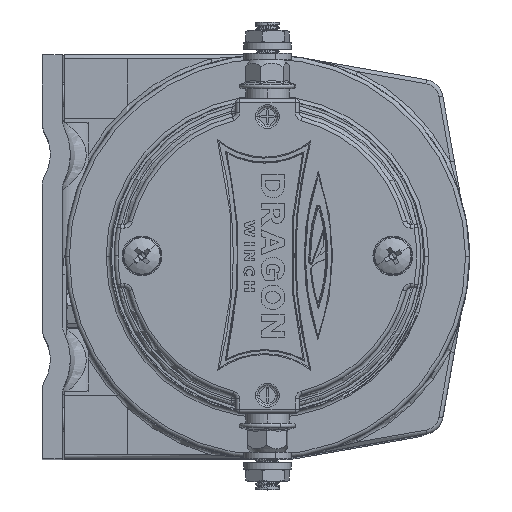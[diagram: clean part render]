
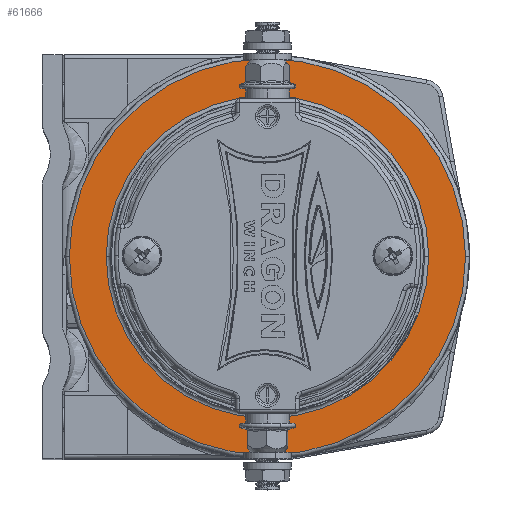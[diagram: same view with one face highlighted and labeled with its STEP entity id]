
A CAD part, top view. The second image highlights one B-rep face of the part: STEP entity #61666.
In plain terms, the highlighted planar face has unit normal (0, 0, 1).
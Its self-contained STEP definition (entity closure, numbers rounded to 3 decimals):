
#851 = EDGE_CURVE ( 'NONE', #25385, #6135, #20379, .T. ) ;
#1169 = CARTESIAN_POINT ( 'NONE',  ( -2.55, 0., 45. ) ) ;
#6135 = VERTEX_POINT ( 'NONE', #26026 ) ;
#6561 = CARTESIAN_POINT ( 'NONE',  ( -2.55, 0., 45. ) ) ;
#8914 = CARTESIAN_POINT ( 'NONE',  ( -2.55, 0., 45. ) ) ;
#11705 = DIRECTION ( 'NONE',  ( 0., 0., 1. ) ) ;
#14529 = EDGE_CURVE ( 'NONE', #64086, #55202, #17914, .T. ) ;
#15894 = ORIENTED_EDGE ( 'NONE', *, *, #851, .T. ) ;
#16867 = CIRCLE ( 'NONE', #64523, 40.5 ) ;
#17914 = CIRCLE ( 'NONE', #38848, 49.75 ) ;
#18409 = ORIENTED_EDGE ( 'NONE', *, *, #38938, .T. ) ;
#19425 = DIRECTION ( 'NONE',  ( 1., 0., 0. ) ) ;
#20379 = CIRCLE ( 'NONE', #45945, 40.5 ) ;
#20966 = DIRECTION ( 'NONE',  ( 1., 0., 0. ) ) ;
#22176 = DIRECTION ( 'NONE',  ( 1., 0., 0. ) ) ;
#23336 = DIRECTION ( 'NONE',  ( 1., 0., 0. ) ) ;
#23844 = EDGE_LOOP ( 'NONE', ( #15894, #18409 ) ) ;
#25385 = VERTEX_POINT ( 'NONE', #39376 ) ;
#25896 = DIRECTION ( 'NONE',  ( 1., 0., 0. ) ) ;
#26026 = CARTESIAN_POINT ( 'NONE',  ( -43.05, 0., 45. ) ) ;
#27497 = DIRECTION ( 'NONE',  ( 0., 0., -1. ) ) ;
#28355 = FACE_OUTER_BOUND ( 'NONE', #50970, .T. ) ;
#28873 = CIRCLE ( 'NONE', #47482, 49.75 ) ;
#30073 = CARTESIAN_POINT ( 'NONE',  ( -52.3, 0., 45. ) ) ;
#31364 = CARTESIAN_POINT ( 'NONE',  ( -2.55, 0., 45. ) ) ;
#33330 = CARTESIAN_POINT ( 'NONE',  ( -2.55, 0., 45. ) ) ;
#38848 = AXIS2_PLACEMENT_3D ( 'NONE', #1169, #11705, #23336 ) ;
#38938 = EDGE_CURVE ( 'NONE', #6135, #25385, #16867, .T. ) ;
#39309 = DIRECTION ( 'NONE',  ( 0., 0., 1. ) ) ;
#39376 = CARTESIAN_POINT ( 'NONE',  ( 37.95, 0., 45. ) ) ;
#40375 = FACE_BOUND ( 'NONE', #23844, .T. ) ;
#40770 = EDGE_CURVE ( 'NONE', #55202, #64086, #28873, .T. ) ;
#45461 = PLANE ( 'NONE',  #59197 ) ;
#45945 = AXIS2_PLACEMENT_3D ( 'NONE', #31364, #70222, #25896 ) ;
#47482 = AXIS2_PLACEMENT_3D ( 'NONE', #8914, #63436, #19425 ) ;
#50970 = EDGE_LOOP ( 'NONE', ( #68618, #71644 ) ) ;
#55202 = VERTEX_POINT ( 'NONE', #62547 ) ;
#59197 = AXIS2_PLACEMENT_3D ( 'NONE', #6561, #39309, #22176 ) ;
#61666 = ADVANCED_FACE ( 'NONE', ( #28355, #40375 ), #45461, .T. ) ;
#62547 = CARTESIAN_POINT ( 'NONE',  ( 47.2, 0., 45. ) ) ;
#63436 = DIRECTION ( 'NONE',  ( 0., 0., 1. ) ) ;
#64086 = VERTEX_POINT ( 'NONE', #30073 ) ;
#64523 = AXIS2_PLACEMENT_3D ( 'NONE', #33330, #27497, #20966 ) ;
#68618 = ORIENTED_EDGE ( 'NONE', *, *, #40770, .T. ) ;
#70222 = DIRECTION ( 'NONE',  ( 0., 0., -1. ) ) ;
#71644 = ORIENTED_EDGE ( 'NONE', *, *, #14529, .T. ) ;
